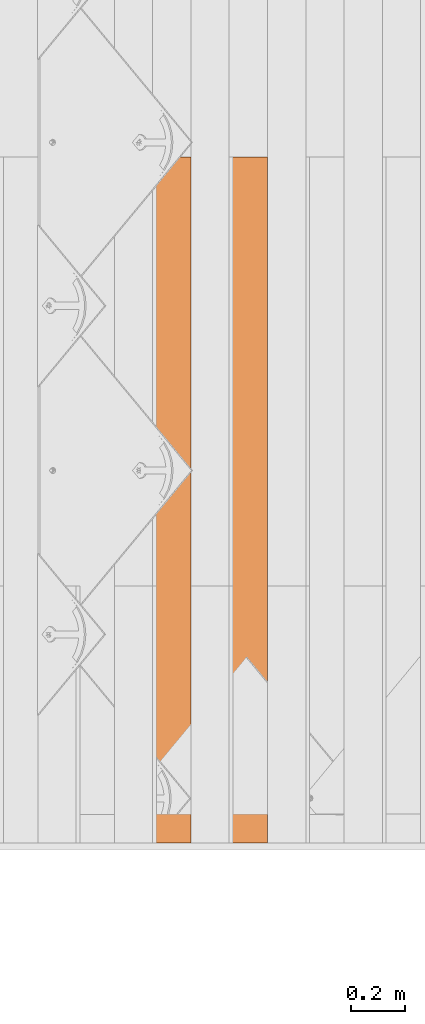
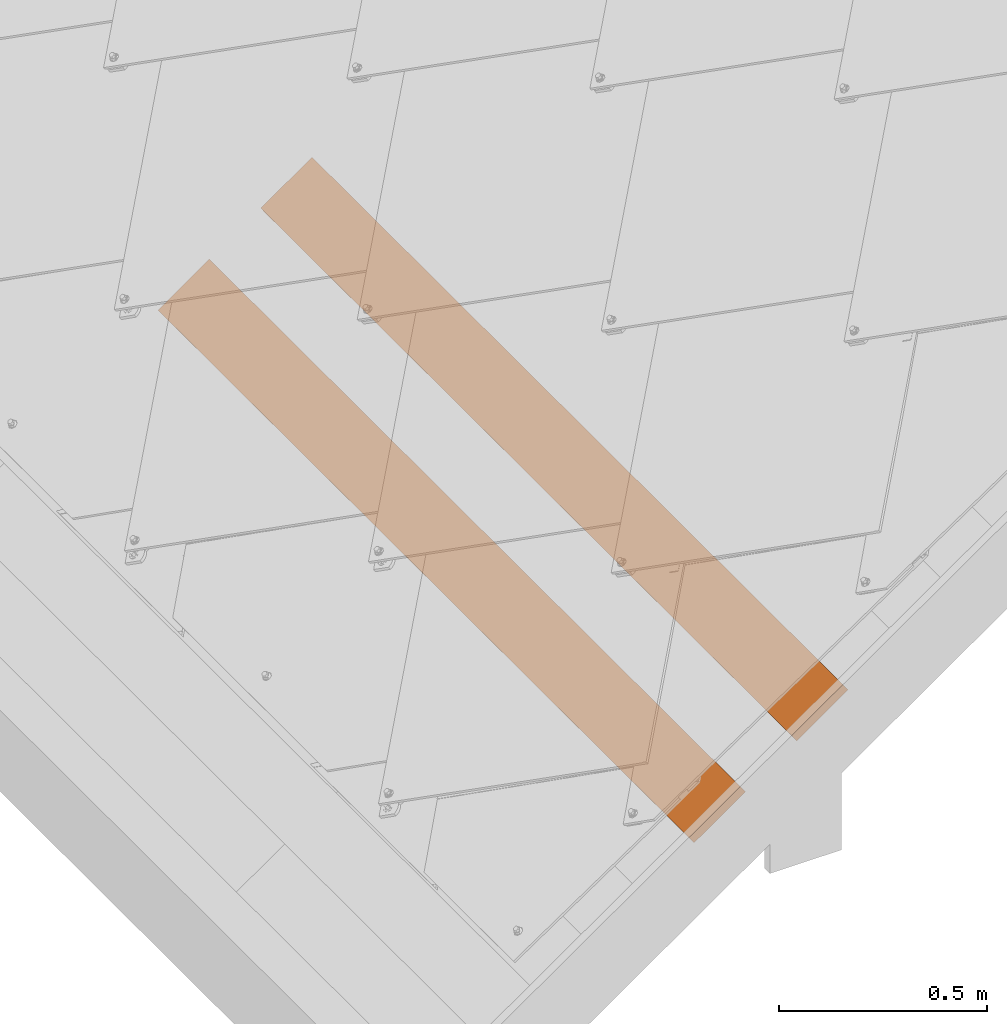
# One storey, part 11 of 151: 2 proxies, 1 element without a shape of its own.
"""IFC2X3 building model written with IfcOpenShell, lengths in millimetres."""

from ifc_helpers import new_model, entity, si_unit, converted_unit, derived_unit, direction, frame, frame_2d, origin, place, context, subcontext, project, spatial, rectangle, extrude, source, transform, mapped, material, type_object, type_shapes, element, aggregate, save


model = new_model("IFC2X3")

# Units and contexts
model_context = context("Model", 3, precision=0.01, world=origin(), true_north=direction((6.12303176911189e-17, 1.0)))
body_context = subcontext(model_context, "Body", "Model", "MODEL_VIEW")
ifc_project = project(units=[si_unit("LENGTHUNIT", "METRE", prefix="MILLI"), si_unit("AREAUNIT", "SQUARE_METRE"), si_unit("VOLUMEUNIT", "CUBIC_METRE"), converted_unit("PLANEANGLEUNIT", "DEGREE", entity("IfcRatioMeasure", 0.0174532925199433), si_unit("PLANEANGLEUNIT", "RADIAN"), dimensions=[0, 0, 0, 0, 0, 0, 0]), si_unit("MASSUNIT", "GRAM", prefix="KILO"), derived_unit("MASSDENSITYUNIT", [(si_unit("MASSUNIT", "GRAM", prefix="KILO"), 1), (si_unit("LENGTHUNIT", "METRE"), -3)]), si_unit("TIMEUNIT", "SECOND"), si_unit("FREQUENCYUNIT", "HERTZ"), si_unit("THERMODYNAMICTEMPERATUREUNIT", "DEGREE_CELSIUS"), derived_unit("THERMALTRANSMITTANCEUNIT", [(si_unit("MASSUNIT", "GRAM", prefix="KILO"), 1), (si_unit("THERMODYNAMICTEMPERATUREUNIT", "KELVIN"), -1), (si_unit("TIMEUNIT", "SECOND"), -3)]), derived_unit("VOLUMETRICFLOWRATEUNIT", [(si_unit("LENGTHUNIT", "METRE"), 3), (si_unit("TIMEUNIT", "SECOND"), -1)]), si_unit("ELECTRICCURRENTUNIT", "AMPERE"), si_unit("ELECTRICVOLTAGEUNIT", "VOLT"), si_unit("POWERUNIT", "WATT"), si_unit("FORCEUNIT", "NEWTON", prefix="KILO"), si_unit("ILLUMINANCEUNIT", "LUX"), si_unit("LUMINOUSFLUXUNIT", "LUMEN"), si_unit("LUMINOUSINTENSITYUNIT", "CANDELA"), derived_unit("USERDEFINED", [(si_unit("MASSUNIT", "GRAM", prefix="KILO"), -1), (si_unit("LENGTHUNIT", "METRE"), -2), (si_unit("TIMEUNIT", "SECOND"), 3), (si_unit("LUMINOUSFLUXUNIT", "LUMEN"), 1)]), derived_unit("LINEARVELOCITYUNIT", [(si_unit("LENGTHUNIT", "METRE"), 1), (si_unit("TIMEUNIT", "SECOND"), -1)]), si_unit("PRESSUREUNIT", "PASCAL"), derived_unit("USERDEFINED", [(si_unit("LENGTHUNIT", "METRE"), -2), (si_unit("MASSUNIT", "GRAM", prefix="KILO"), 1), (si_unit("TIMEUNIT", "SECOND"), -2)])], contexts=[model_context])

# Site, building, storey
site_placement = place(None, origin())
site = spatial("IfcSite", under=ifc_project, at=site_placement, Name="Default", CompositionType="ELEMENT")
building_placement = place(site_placement, origin())
building = spatial("IfcBuilding", under=site, at=building_placement, CompositionType="ELEMENT")
storey_placement = place(building_placement, origin())
storey = spatial("IfcBuildingStorey", under=building, at=storey_placement, Name="Level 1", CompositionType="ELEMENT", Elevation=0.0)

# Assembly, proxies
assembly_placement = place(storey_placement, origin())
assembly = element("IfcElementAssembly", 1, at=assembly_placement, inside=storey, Name="Structural Framing Assembly:Roof Construction Assembly", ObjectType="Structural Framing Assembly:Roof Construction Assembly", AssemblyPlace="NOTDEFINED", PredefinedType="USERDEFINED")
ifc_material = material(Name="Wood - Generic - Wood For Showcase")
building_element_proxy_type_1 = type_object("IfcBuildingElementProxyType", Name="Structural Framing 15", PredefinedType="NOTDEFINED", material=ifc_material)
shared_shape_1 = source(origin(), body_context, "Body", "SweptSolid", [
    extrude(rectangle(XDim=24.9999999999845, YDim=174.344679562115, at=frame_2d((-1.77635683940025e-13, -4.54747350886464e-13), x_axis=(0.0, 1.0))), frame((1128.20180147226, 1437.09519417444, 2760.23940055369), z_axis=(0.0, 1.0, 0.0), x_axis=(-0.819152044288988, 0.0, -0.573576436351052)), (0.0, 0.0, 1.0), 2558.4556079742),
])
type_shapes(building_element_proxy_type_1, [shared_shape_1])
proxy_1_placement = place(assembly_placement, frame((-2655.99334169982, -8140.0, -1900.0)))
proxy_1 = element("IfcBuildingElementProxy", 2, at=proxy_1_placement, type_object=building_element_proxy_type_1, material=ifc_material, Name="Structural Framing 113:Structural Framing 15", ObjectType="Structural Framing 113:Structural Framing 15", context=body_context, shape_type="MappedRepresentation", body=[
    mapped(shared_shape_1, transform((0.0, 0.0, 0.0), scale=1.0)),
])
building_element_proxy_type_2 = type_object("IfcBuildingElementProxyType", Name="Structural Framing 15", PredefinedType="NOTDEFINED", material=ifc_material)
shared_shape_2 = source(origin(), body_context, "Body", "SweptSolid", [
    extrude(rectangle(XDim=24.9999999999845, YDim=174.344679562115, at=frame_2d((-1.77635683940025e-13, -4.54747350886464e-13), x_axis=(0.0, 1.0))), frame((1128.20180147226, 1437.09519417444, 2760.23940055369), z_axis=(0.0, 1.0, 0.0), x_axis=(-0.819152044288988, 0.0, -0.573576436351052)), (0.0, 0.0, 1.0), 2558.4556079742),
])
type_shapes(building_element_proxy_type_2, [shared_shape_2])
proxy_2_placement = place(assembly_placement, frame((-2941.62294304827, -8140.0, -2100.0)))
proxy_2 = element("IfcBuildingElementProxy", 3, at=proxy_2_placement, type_object=building_element_proxy_type_2, material=ifc_material, Name="Structural Framing 123:Structural Framing 15", ObjectType="Structural Framing 123:Structural Framing 15", context=body_context, shape_type="MappedRepresentation", body=[
    mapped(shared_shape_2, transform((0.0, 0.0, 0.0), scale=1.0)),
])
aggregate(assembly, [proxy_1, proxy_2])

save(model, "model.ifc")
